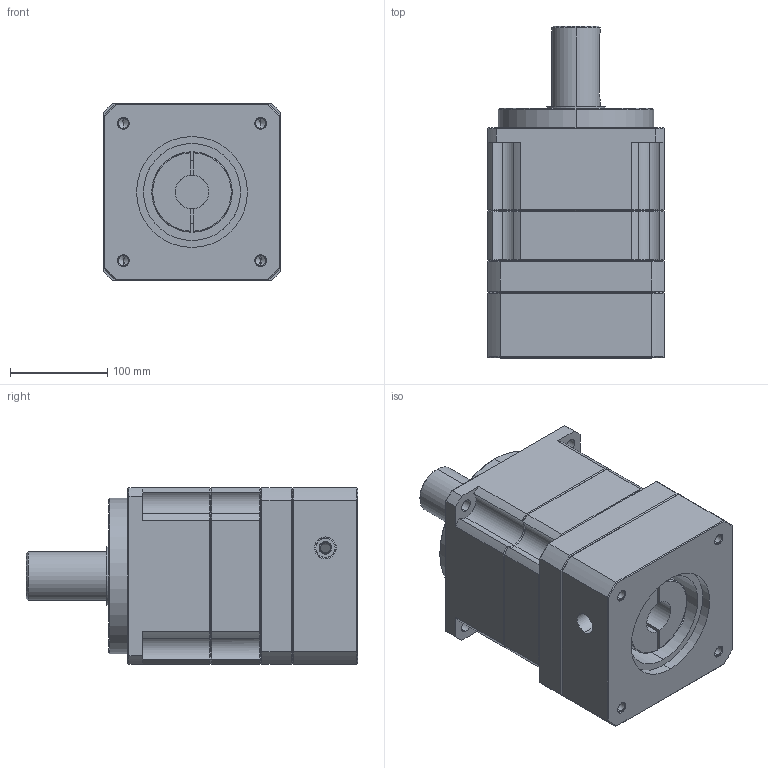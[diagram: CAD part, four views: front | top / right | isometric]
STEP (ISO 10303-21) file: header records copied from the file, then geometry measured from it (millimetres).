
FILE_DESCRIPTION (( 'STEP AP203' ), '1' );
FILE_NAME ('MF180H-L2£r114.3PCD£r200M12.STEP', '2014-04-23T03:42:44', ( 'KELLY' ), ( '' ), 'SwSTEP 2.0', 'SolidWorks 2012', '' );
FILE_SCHEMA (( 'CONFIG_CONTROL_DESIGN' ));
Length unit declared in the file: millimetre
Products named in the file (1): MF180H-L2｣r114.3PCD｣r200M12
Bounding box: 182 x 342 x 182 mm (x, y, z)
Volume: 7428019.9 mm3; surface area: 454519.2 mm2
Topology: 3 solids, 3 shells, 265 faces, 622 edges, 367 vertices
Faces by surface type: cylinder 92, cone 90, plane 79, torus 4
Entity records: 8305 total; most frequent: CARTESIAN_POINT 2215, DIRECTION 1294, ORIENTED_EDGE 1224, EDGE_CURVE 612, AXIS2_PLACEMENT_3D 526, VERTEX_POINT 367, EDGE_LOOP 299, FACE_OUTER_BOUND 265
